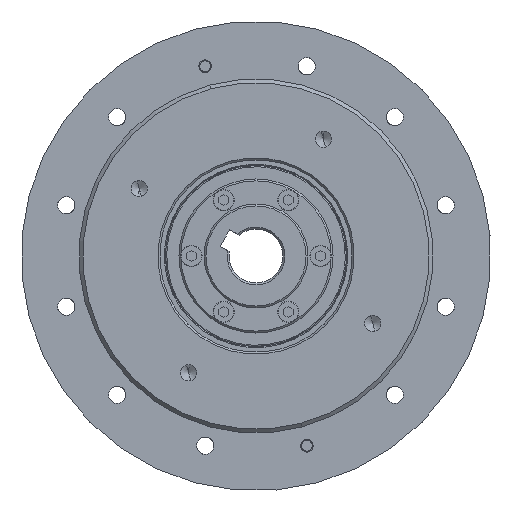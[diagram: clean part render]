
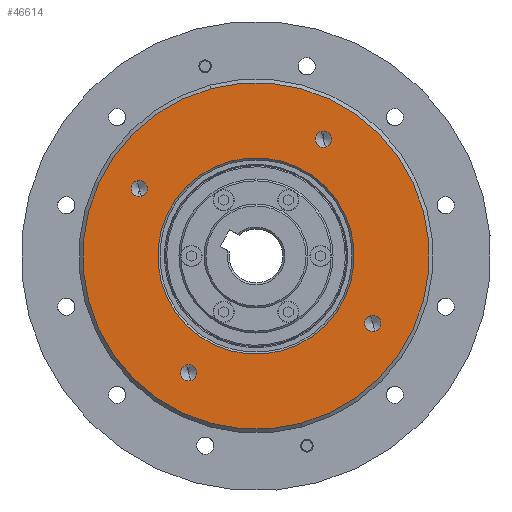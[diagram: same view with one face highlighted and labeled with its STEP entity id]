
A CAD part, left-side view. The second image highlights one B-rep face of the part: STEP entity #46614.
In plain terms, the highlighted planar face has unit normal (-1, 0, 0).
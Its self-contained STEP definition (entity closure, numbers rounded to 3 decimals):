
#315 = VERTEX_POINT ( 'NONE', #78882 ) ;
#1276 = DIRECTION ( 'NONE',  ( 1., 0., 0. ) ) ;
#2459 = DIRECTION ( 'NONE',  ( -1., 0., 0. ) ) ;
#4966 = FACE_BOUND ( 'NONE', #67420, .T. ) ;
#5722 = DIRECTION ( 'NONE',  ( 0., -0.259, -0.966 ) ) ;
#6352 = DIRECTION ( 'NONE',  ( 0., -0.259, -0.966 ) ) ;
#6778 = DIRECTION ( 'NONE',  ( -1., 0., 0. ) ) ;
#6931 = AXIS2_PLACEMENT_3D ( 'NONE', #12657, #62907, #62481 ) ;
#8248 = DIRECTION ( 'NONE',  ( 0., -0.259, -0.966 ) ) ;
#8612 = AXIS2_PLACEMENT_3D ( 'NONE', #44867, #6778, #68445 ) ;
#8744 = EDGE_CURVE ( 'NONE', #70525, #26301, #76402, .T. ) ;
#8944 = ORIENTED_EDGE ( 'NONE', *, *, #66702, .F. ) ;
#9645 = CIRCLE ( 'NONE', #44954, 2.1 ) ;
#11242 = CIRCLE ( 'NONE', #54334, 2.1 ) ;
#11488 = VERTEX_POINT ( 'NONE', #17720 ) ;
#12657 = CARTESIAN_POINT ( 'NONE',  ( -141.005, 28.01, -17.5 ) ) ;
#13077 = EDGE_CURVE ( 'NONE', #315, #32761, #62958, .T. ) ;
#13146 = CARTESIAN_POINT ( 'NONE',  ( -141.005, 41.364, 32.339 ) ) ;
#13796 = CARTESIAN_POINT ( 'NONE',  ( -141.005, 75.821, -30.311 ) ) ;
#14647 = DIRECTION ( 'NONE',  ( -1., 0., 0. ) ) ;
#15361 = ORIENTED_EDGE ( 'NONE', *, *, #40334, .T. ) ;
#17368 = EDGE_LOOP ( 'NONE', ( #76553, #8944 ) ) ;
#17720 = CARTESIAN_POINT ( 'NONE',  ( -141.005, 64.921, 24.631 ) ) ;
#18674 = DIRECTION ( 'NONE',  ( -1., 0., 0. ) ) ;
#19115 = AXIS2_PLACEMENT_3D ( 'NONE', #68846, #18674, #6352 ) ;
#20514 = ORIENTED_EDGE ( 'NONE', *, *, #52353, .F. ) ;
#23132 = EDGE_CURVE ( 'NONE', #73572, #57250, #39813, .T. ) ;
#23433 = AXIS2_PLACEMENT_3D ( 'NONE', #77634, #27466, #28653 ) ;
#24162 = DIRECTION ( 'NONE',  ( 1., 0., 0. ) ) ;
#24593 = VERTEX_POINT ( 'NONE', #46703 ) ;
#24620 = PLANE ( 'NONE',  #43172 ) ;
#26301 = VERTEX_POINT ( 'NONE', #69499 ) ;
#26368 = CARTESIAN_POINT ( 'NONE',  ( -141.005, 40.277, 28.282 ) ) ;
#26440 = DIRECTION ( 'NONE',  ( -1., 0., 0. ) ) ;
#26846 = VERTEX_POINT ( 'NONE', #79502 ) ;
#27466 = DIRECTION ( 'NONE',  ( -1., 0., 0. ) ) ;
#28653 = DIRECTION ( 'NONE',  ( 0., -0.259, -0.966 ) ) ;
#29089 = AXIS2_PLACEMENT_3D ( 'NONE', #61738, #24162, #5722 ) ;
#29802 = ORIENTED_EDGE ( 'NONE', *, *, #13077, .F. ) ;
#30744 = FACE_BOUND ( 'NONE', #17368, .T. ) ;
#31585 = FACE_BOUND ( 'NONE', #39801, .T. ) ;
#32761 = VERTEX_POINT ( 'NONE', #48929 ) ;
#33446 = DIRECTION ( 'NONE',  ( 0., 0.259, 0.966 ) ) ;
#34751 = CARTESIAN_POINT ( 'NONE',  ( -141.005, 28.01, -17.5 ) ) ;
#35318 = DIRECTION ( 'NONE',  ( -1., 0., 0. ) ) ;
#35847 = AXIS2_PLACEMENT_3D ( 'NONE', #70149, #14647, #33446 ) ;
#38928 = CARTESIAN_POINT ( 'NONE',  ( -141.005, 58.321, 0. ) ) ;
#39571 = ORIENTED_EDGE ( 'NONE', *, *, #42253, .T. ) ;
#39801 = EDGE_LOOP ( 'NONE', ( #15361, #62350 ) ) ;
#39813 = CIRCLE ( 'NONE', #35847, 2.1 ) ;
#39929 = DIRECTION ( 'NONE',  ( -1., 0., 0. ) ) ;
#39942 = EDGE_CURVE ( 'NONE', #66166, #43760, #56927, .T. ) ;
#40334 = EDGE_CURVE ( 'NONE', #11488, #26846, #64839, .T. ) ;
#40763 = DIRECTION ( 'NONE',  ( -1., 0., 0. ) ) ;
#41186 = EDGE_LOOP ( 'NONE', ( #56082, #39571 ) ) ;
#41545 = CARTESIAN_POINT ( 'NONE',  ( -141.005, 69.968, 43.467 ) ) ;
#42253 = EDGE_CURVE ( 'NONE', #43760, #66166, #58657, .T. ) ;
#43172 = AXIS2_PLACEMENT_3D ( 'NONE', #57276, #1276, #8248 ) ;
#43760 = VERTEX_POINT ( 'NONE', #41545 ) ;
#44867 = CARTESIAN_POINT ( 'NONE',  ( -141.005, 75.821, -30.311 ) ) ;
#44954 = AXIS2_PLACEMENT_3D ( 'NONE', #77842, #40763, #46130 ) ;
#46130 = DIRECTION ( 'NONE',  ( 0., 0.259, 0.966 ) ) ;
#46147 = CIRCLE ( 'NONE', #6931, 2.1 ) ;
#46460 = DIRECTION ( 'NONE',  ( 0., 0.259, 0.966 ) ) ;
#46614 = ADVANCED_FACE ( 'NONE', ( #31585, #67047, #30744, #55656, #80485, #4966 ), #24620, .F. ) ;
#46703 = CARTESIAN_POINT ( 'NONE',  ( -141.005, 88.088, 15.472 ) ) ;
#47870 = AXIS2_PLACEMENT_3D ( 'NONE', #38928, #51520, #77598 ) ;
#48354 = CARTESIAN_POINT ( 'NONE',  ( -141.005, 40.821, 30.311 ) ) ;
#48929 = CARTESIAN_POINT ( 'NONE',  ( -141.005, 27.466, -19.528 ) ) ;
#49852 = ORIENTED_EDGE ( 'NONE', *, *, #76681, .F. ) ;
#51520 = DIRECTION ( 'NONE',  ( 1., 0., 0. ) ) ;
#52353 = EDGE_CURVE ( 'NONE', #32761, #315, #46147, .T. ) ;
#52508 = AXIS2_PLACEMENT_3D ( 'NONE', #34751, #2459, #60061 ) ;
#53535 = CARTESIAN_POINT ( 'NONE',  ( -141.005, 46.674, -43.467 ) ) ;
#54090 = DIRECTION ( 'NONE',  ( 0., 0.259, 0.966 ) ) ;
#54334 = AXIS2_PLACEMENT_3D ( 'NONE', #48354, #35318, #54090 ) ;
#55656 = FACE_BOUND ( 'NONE', #64010, .T. ) ;
#56082 = ORIENTED_EDGE ( 'NONE', *, *, #39942, .T. ) ;
#56927 = CIRCLE ( 'NONE', #19115, 45. ) ;
#57250 = VERTEX_POINT ( 'NONE', #26368 ) ;
#57276 = CARTESIAN_POINT ( 'NONE',  ( -141.005, 82.469, -6.47 ) ) ;
#57870 = EDGE_LOOP ( 'NONE', ( #63496, #67867 ) ) ;
#58657 = CIRCLE ( 'NONE', #23433, 45. ) ;
#59151 = CIRCLE ( 'NONE', #29089, 25.5 ) ;
#60061 = DIRECTION ( 'NONE',  ( 0., 0.259, 0.966 ) ) ;
#61564 = VERTEX_POINT ( 'NONE', #66302 ) ;
#61738 = CARTESIAN_POINT ( 'NONE',  ( -141.005, 58.321, 0. ) ) ;
#62168 = ORIENTED_EDGE ( 'NONE', *, *, #79276, .F. ) ;
#62350 = ORIENTED_EDGE ( 'NONE', *, *, #71792, .T. ) ;
#62481 = DIRECTION ( 'NONE',  ( 0., 0.259, 0.966 ) ) ;
#62907 = DIRECTION ( 'NONE',  ( -1., 0., 0. ) ) ;
#62958 = CIRCLE ( 'NONE', #52508, 2.1 ) ;
#63225 = DIRECTION ( 'NONE',  ( 0., 0.259, 0.966 ) ) ;
#63496 = ORIENTED_EDGE ( 'NONE', *, *, #23132, .F. ) ;
#64010 = EDGE_LOOP ( 'NONE', ( #29802, #20514 ) ) ;
#64651 = CIRCLE ( 'NONE', #76469, 2.1 ) ;
#64839 = CIRCLE ( 'NONE', #47870, 25.5 ) ;
#66166 = VERTEX_POINT ( 'NONE', #53535 ) ;
#66302 = CARTESIAN_POINT ( 'NONE',  ( -141.005, 89.175, 19.528 ) ) ;
#66702 = EDGE_CURVE ( 'NONE', #26301, #70525, #64651, .T. ) ;
#67047 = FACE_OUTER_BOUND ( 'NONE', #41186, .T. ) ;
#67420 = EDGE_LOOP ( 'NONE', ( #62168, #49852 ) ) ;
#67867 = ORIENTED_EDGE ( 'NONE', *, *, #73166, .F. ) ;
#68445 = DIRECTION ( 'NONE',  ( 0., 0.259, 0.966 ) ) ;
#68846 = CARTESIAN_POINT ( 'NONE',  ( -141.005, 58.321, 0. ) ) ;
#69499 = CARTESIAN_POINT ( 'NONE',  ( -141.005, 75.277, -32.339 ) ) ;
#70149 = CARTESIAN_POINT ( 'NONE',  ( -141.005, 40.821, 30.311 ) ) ;
#70525 = VERTEX_POINT ( 'NONE', #77123 ) ;
#71792 = EDGE_CURVE ( 'NONE', #26846, #11488, #59151, .T. ) ;
#73166 = EDGE_CURVE ( 'NONE', #57250, #73572, #11242, .T. ) ;
#73572 = VERTEX_POINT ( 'NONE', #13146 ) ;
#76402 = CIRCLE ( 'NONE', #8612, 2.1 ) ;
#76469 = AXIS2_PLACEMENT_3D ( 'NONE', #13796, #26440, #63225 ) ;
#76553 = ORIENTED_EDGE ( 'NONE', *, *, #8744, .F. ) ;
#76681 = EDGE_CURVE ( 'NONE', #24593, #61564, #78463, .T. ) ;
#77123 = CARTESIAN_POINT ( 'NONE',  ( -141.005, 76.364, -28.282 ) ) ;
#77197 = AXIS2_PLACEMENT_3D ( 'NONE', #77412, #39929, #46460 ) ;
#77412 = CARTESIAN_POINT ( 'NONE',  ( -141.005, 88.632, 17.5 ) ) ;
#77598 = DIRECTION ( 'NONE',  ( 0., -0.259, -0.966 ) ) ;
#77634 = CARTESIAN_POINT ( 'NONE',  ( -141.005, 58.321, 0. ) ) ;
#77842 = CARTESIAN_POINT ( 'NONE',  ( -141.005, 88.632, 17.5 ) ) ;
#78463 = CIRCLE ( 'NONE', #77197, 2.1 ) ;
#78882 = CARTESIAN_POINT ( 'NONE',  ( -141.005, 28.553, -15.472 ) ) ;
#79276 = EDGE_CURVE ( 'NONE', #61564, #24593, #9645, .T. ) ;
#79502 = CARTESIAN_POINT ( 'NONE',  ( -141.005, 51.721, -24.631 ) ) ;
#80485 = FACE_BOUND ( 'NONE', #57870, .T. ) ;
